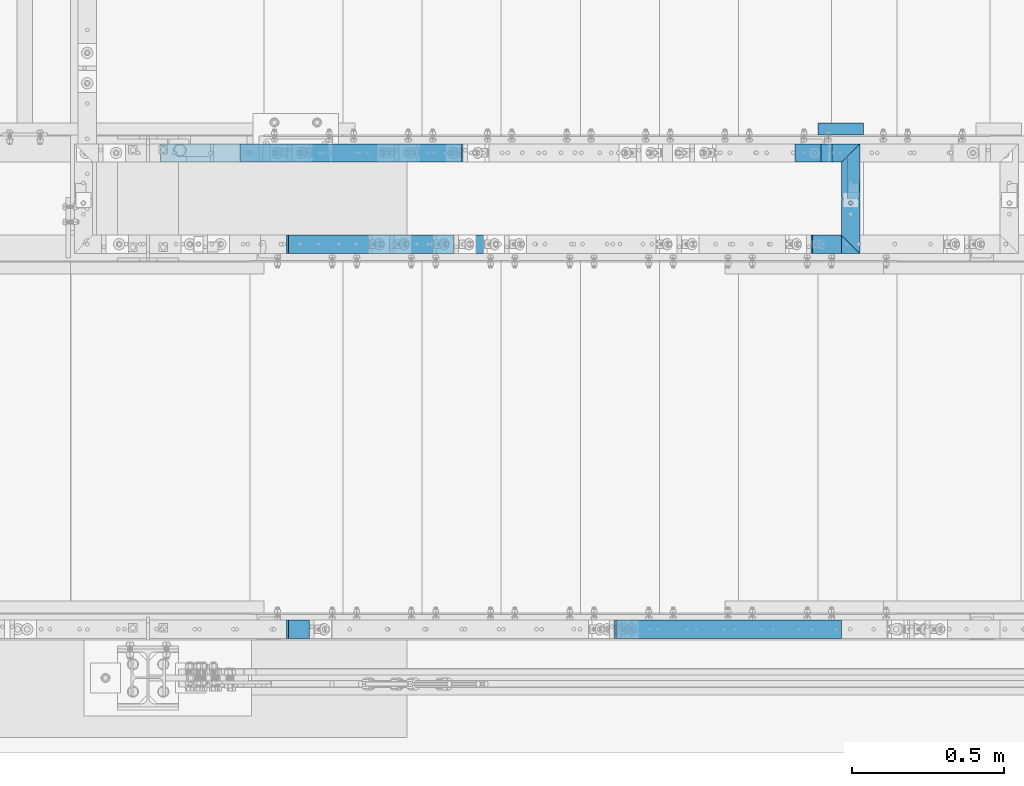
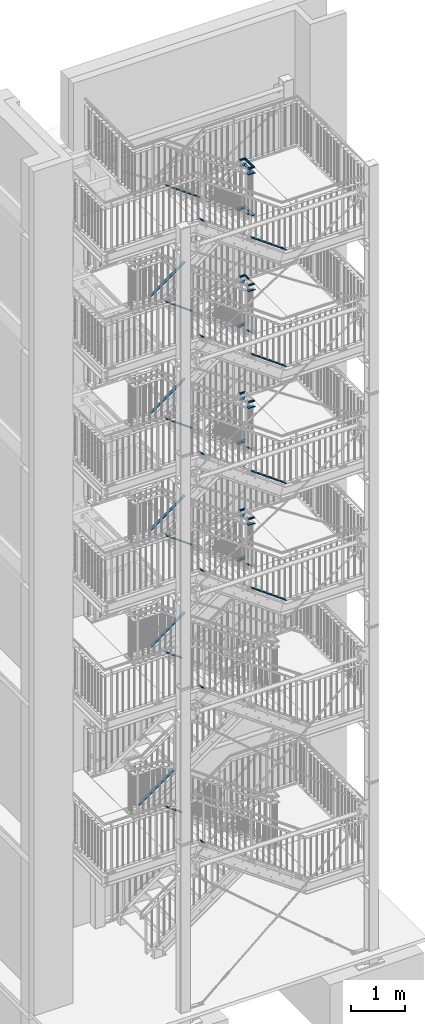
# One storey, part 135 of 825: 35 beams, 25 members, 2 openings.
"""IFC2X3 building model written with IfcOpenShell, lengths in millimetres."""

import ifcopenshell
import ifcopenshell.guid

model = None  # the IFC model being written
_history = None  # IfcOwnerHistory: only IFC2X3 demands one
_inside = {}  # id of a spatial element -> (the spatial element, [elements in it])
_under = {}  # id of a project, library or spatial element -> (it, [spatial elements below it])
_declared = {}  # id of a project -> (the project, [libraries it declares])
_typed = {}  # id of a type object -> (the type object, [elements of that type])
_made_of = {}  # id of a material, layer set ... -> (it, [elements and type objects made of it])


def new_model(schema):
    """Start an empty IFC model of exactly this schema.

    Asked for "IFC4X3", IfcOpenShell would pick the latest addendum, in which some entities
    have other attributes; the version numbers below select the first issue.
    IFC2X3 requires an IfcOwnerHistory on every rooted entity: one is made here for all.
    """
    global model, _history
    if schema == "IFC4X3":
        model = ifcopenshell.file(schema_version=(4, 3, 0, 0))
    else:
        model = ifcopenshell.file(schema=schema)
    _inside.clear()
    _under.clear()
    _declared.clear()
    _typed.clear()
    _made_of.clear()
    _history = None
    if model.schema == "IFC2X3":
        org = make("IfcOrganization", Name="unknown")
        user = make(
            "IfcPersonAndOrganization",
            ThePerson=make("IfcPerson", FamilyName="unknown"),
            TheOrganization=org,
        )
        app = make(
            "IfcApplication",
            ApplicationDeveloper=org,
            Version="unknown",
            ApplicationFullName="unknown",
            ApplicationIdentifier="unknown",
        )
        _history = make(
            "IfcOwnerHistory",
            OwningUser=user,
            OwningApplication=app,
            ChangeAction="ADDED",
            CreationDate=0,
        )
    return model


def make(cls, **values):
    """One entity of the class cls with the attributes given. An attribute that is None is left unset."""
    return model.create_entity(
        cls, **{name: value for name, value in values.items() if value is not None}
    )


def entity(cls, *values):
    """Any entity or typed value of the class cls, its attributes in the order of the schema. None: left unset."""
    e = model.create_entity(cls)
    for i, value in enumerate(values):
        if value is not None:
            e[i] = value
    return e


def rooted(cls, **values):
    """An entity with a GlobalId (a new one), such as an element, a storey or a relation."""
    return make(cls, GlobalId=ifcopenshell.guid.new(), OwnerHistory=_history, **values)


def si_unit(unit_type, name, prefix=None):
    """IfcSIUnit, for example si_unit("LENGTHUNIT", "METRE", prefix="MILLI")."""
    return make("IfcSIUnit", UnitType=unit_type, Prefix=prefix, Name=name)


def converted_unit(unit_type, name, factor, base, dimensions=None, offset=None):
    """IfcConversionBasedUnit, such as the inch: factor (a typed value) times the base unit."""
    return make(
        "IfcConversionBasedUnit"
        if offset is None
        else "IfcConversionBasedUnitWithOffset",
        ConversionOffset=offset,
        Dimensions=None
        if dimensions is None
        else entity("IfcDimensionalExponents", *dimensions),
        UnitType=unit_type,
        Name=name,
        ConversionFactor=make(
            "IfcMeasureWithUnit", ValueComponent=factor, UnitComponent=base
        ),
    )


def assignment(units):
    """IfcUnitAssignment: the units of a project."""
    return None if units is None else make("IfcUnitAssignment", Units=units)


def point(xyz):
    """IfcCartesianPoint."""
    return None if xyz is None else make("IfcCartesianPoint", Coordinates=xyz)


def direction(xyz):
    """IfcDirection."""
    return None if xyz is None else make("IfcDirection", DirectionRatios=xyz)


def frame(location, z_axis=None, x_axis=None):
    """IfcAxis2Placement3D, a coordinate frame: its origin and axes. An axis left out is left unset."""
    return make(
        "IfcAxis2Placement3D",
        Location=point(location),
        Axis=direction(z_axis),
        RefDirection=direction(x_axis),
    )


def frame_2d(location, x_axis=None):
    """IfcAxis2Placement2D, a coordinate frame in the plane: its origin and x axis."""
    return make(
        "IfcAxis2Placement2D", Location=point(location), RefDirection=direction(x_axis)
    )


def origin():
    """The frame at (0, 0, 0) with its axes left unset."""
    return frame((0.0, 0.0, 0.0))


def origin_with_axes():
    """The frame at (0, 0, 0) with the z axis (0, 0, 1) and the x axis (1, 0, 0) written out."""
    return frame((0.0, 0.0, 0.0), z_axis=(0.0, 0.0, 1.0), x_axis=(1.0, 0.0, 0.0))


def origin_2d():
    """The frame at (0, 0) in the plane with its x axis left unset."""
    return frame_2d((0.0, 0.0))


def place(relative_to, where):
    """IfcLocalPlacement: puts the frame where relative to a parent placement (None: the world)."""
    return make(
        "IfcLocalPlacement", PlacementRelTo=relative_to, RelativePlacement=where
    )


def context(
    kind, dimensions, precision=None, world=None, true_north=None, identifier=None
):
    """IfcGeometricRepresentationContext, for example the 3D "Model" context."""
    return make(
        "IfcGeometricRepresentationContext",
        ContextIdentifier=identifier,
        ContextType=kind,
        CoordinateSpaceDimension=dimensions,
        Precision=precision,
        WorldCoordinateSystem=world,
        TrueNorth=true_north,
    )


def project(units=None, contexts=None):
    """IfcProject with its units and contexts."""
    return rooted(
        "IfcProject",
        Name="project",
        RepresentationContexts=contexts,
        UnitsInContext=assignment(units),
    )


def spatial(cls, under=None, at=None, **own):
    """A site, building, storey or space (cls), placed at a placement, below another one or the project."""
    s = rooted(cls, ObjectPlacement=at, **own)
    if under is not None:
        _under.setdefault(under.id(), (under, []))[1].append(s)
    return s


def profile(cls, at=None, kind="AREA", **sizes):
    """A parametric profile (cls). Its sizes go by their IFC names, for example OverallWidth=200.0."""
    return make(cls, ProfileType=kind, Position=at, **sizes)


def rectangle(**sizes):
    """IfcRectangleProfileDef."""
    return profile("IfcRectangleProfileDef", **sizes)


def circle(**sizes):
    """IfcCircleProfileDef."""
    return profile("IfcCircleProfileDef", **sizes)


def hollow_circle(**sizes):
    """IfcCircleHollowProfileDef."""
    return profile("IfcCircleHollowProfileDef", **sizes)


def l_section(**sizes):
    """IfcLShapeProfileDef."""
    return profile("IfcLShapeProfileDef", **sizes)


def extrude(swept, where, along, depth):
    """IfcExtrudedAreaSolid: the profile swept, set in the frame where, extruded along a direction by depth."""
    return make(
        "IfcExtrudedAreaSolid",
        SweptArea=swept,
        Position=where,
        ExtrudedDirection=direction(along),
        Depth=depth,
    )


def clip(a, b, op="DIFFERENCE"):
    """IfcBooleanClippingResult: the solid a cut by the half space b."""
    return make(
        "IfcBooleanClippingResult", Operator=op, FirstOperand=a, SecondOperand=b
    )


def halfspace(plane, agree):
    """IfcHalfSpaceSolid: all space on one side of the plane z = 0 of the frame plane."""
    return make(
        "IfcHalfSpaceSolid",
        BaseSurface=make("IfcPlane", Position=plane),
        AgreementFlag=agree,
    )


def shape(context_of_items, identifier, shape_type, items):
    """IfcShapeRepresentation: the items that make up one representation, for example the "Body"."""
    return make(
        "IfcShapeRepresentation",
        ContextOfItems=context_of_items,
        RepresentationIdentifier=identifier,
        RepresentationType=shape_type,
        Items=items,
    )


def material(Name=None, Category=None):
    """IfcMaterial."""
    return make("IfcMaterial", Name=Name, Category=Category)


def made_of(thing, what):
    """Note that an element or type object is made of a material, layer set ...; save() writes the relation."""
    if what is not None:
        _made_of.setdefault(what.id(), (what, []))[1].append(thing)
    return thing


def element(
    cls,
    number,
    at=None,
    inside=None,
    cuts=None,
    type_object=None,
    material=None,
    context=None,
    identifier="Body",
    shape_type=None,
    held_by="IfcProductDefinitionShape",
    body=None,
    shapes=None,
    **own,
):
    """One element of the class cls, such as IfcWall. Its Tag is "e" and its number.

    at: its placement. inside: the storey or other place that contains it. cuts: it is an
    opening in that element (IfcRelVoidsElement). A single representation is given by context,
    identifier, shape_type and body (its items); several are given by shapes. held_by: the class
    of the entity that holds the representations. save() writes the other relations.
    """
    e = rooted(cls, Tag="e%d" % number, ObjectPlacement=at, **own)
    if body is not None:
        shapes = [shape(context, identifier, shape_type, body)]
    if shapes is not None:
        e.Representation = make(held_by, Representations=shapes)
    if inside is not None:
        _inside.setdefault(inside.id(), (inside, []))[1].append(e)
    if cuts is not None:
        rooted(
            "IfcRelVoidsElement", RelatingBuildingElement=cuts, RelatedOpeningElement=e
        )
    if type_object is not None:
        _typed.setdefault(type_object.id(), (type_object, []))[1].append(e)
    return made_of(e, material)


def aggregate(whole, parts):
    """IfcRelAggregates: a whole, such as a stair, and the parts it consists of."""
    return rooted("IfcRelAggregates", RelatingObject=whole, RelatedObjects=parts)


def save(model, path):
    """Write the relations noted so far, then the file.

    IfcRelAggregates (storeys below a building ...), IfcRelContainedInSpatialStructure (elements
    in a storey), IfcRelDefinesByType, IfcRelAssociatesMaterial and IfcRelDeclares: one each for
    every whole, place, type object, material and project.
    """
    for whole, parts in _under.values():
        aggregate(whole, parts)
    for where, things in _inside.values():
        rooted(
            "IfcRelContainedInSpatialStructure",
            RelatedElements=things,
            RelatingStructure=where,
        )
    for kind, things in _typed.values():
        rooted("IfcRelDefinesByType", RelatedObjects=things, RelatingType=kind)
    for what, things in _made_of.values():
        rooted("IfcRelAssociatesMaterial", RelatedObjects=things, RelatingMaterial=what)
    for by, libraries in _declared.values():
        rooted("IfcRelDeclares", RelatingContext=by, RelatedDefinitions=libraries)
    model.write(path)


model = new_model("IFC2X3")

# Units and contexts
model_context = context("Model", 3, precision=1e-09, world=origin_with_axes())
ifc_project = project(units=[si_unit("LENGTHUNIT", "METRE", prefix="MILLI"), si_unit("AREAUNIT", "SQUARE_METRE"), si_unit("VOLUMEUNIT", "CUBIC_METRE"), converted_unit("PLANEANGLEUNIT", "DEGREE", entity("IfcPlaneAngleMeasure", 0.01745329), si_unit("PLANEANGLEUNIT", "RADIAN"), dimensions=[0, 0, 0, 0, 0, 0, 0])], contexts=[model_context])

# Site, building, storey
site_placement = place(None, origin_with_axes())
site = spatial("IfcSite", under=ifc_project, at=site_placement, Name="Cnopf'sche Kinderklinik", CompositionType="ELEMENT")
building_placement = place(site_placement, origin_with_axes())
building = spatial("IfcBuilding", under=site, at=building_placement, Name="Struktur 1", CompositionType="ELEMENT")
storey_placement = place(building_placement, origin_with_axes())
storey = spatial("IfcBuildingStorey", under=building, at=storey_placement, Name="Default Storey", CompositionType="ELEMENT", Elevation=0.0)

# Beams
ifc_material = material(Name="S235JR")
for number, where, z_axis, x_axis, name in (
    (1, (7206.713402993, 6160.936971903, 11254.3000003), (1.0, 0.0, 0.0), (0.0, 0.0, -1.0), "TopLanding#3"),
    (2, (7206.713402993, 6160.936971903, 8624.8), (1.0, 0.0, 0.0), (0.0, 0.0, -1.0), "TopLanding#3"),
    (3, (7206.713402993, 6160.936971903, 13885.3000001), (1.0, 0.0, 0.0), (0.0, 0.0, -1.0), "TopLanding#3"),
    (4, (7206.713402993, 6160.936971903, 16512.8000003), (1.0, 0.0, 0.0), (0.0, 0.0, -1.0), "TopLanding#3"),
):
    element("IfcBeam", number, at=place(None, frame(where, z_axis=z_axis, x_axis=x_axis)), inside=storey, material=ifc_material, Name=name, ObjectType="TopLanding#3", context=model_context, shape_type="SweptSolid", body=[
        extrude(l_section(Depth=40.0, Width=40.0, Thickness=4.0, FilletRadius=6.0, EdgeRadius=3.0, at=frame_2d((8.8, 8.8))), origin(), (0.0, 0.0, -1.0), 150.0),
    ])

# Members
member_1_placement = place(None, frame((5380.542886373, 4526.736971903, 3864.391894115), z_axis=(0.814635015, 0.0, -0.579973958), x_axis=(-0.579973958, 0.0, -0.814635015)))
element("IfcMember", 5, at=member_1_placement, inside=storey, material=ifc_material, Name="Railing_Kneerail_Stair#15", ObjectType="Railing_Kneerail_Stair#15", context=model_context, shape_type="SweptSolid", body=[
    extrude(rectangle(XDim=10.0, YDim=60.0, at=origin_2d()), origin(), (0.0, 0.0, -1.0), 80.488581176),
])
member_2_placement = place(None, frame((5384.416190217, 4526.736971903, 7335.61551807), z_axis=(0.818063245, 0.0, -0.57512827), x_axis=(-0.57512827, 0.0, -0.818063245)))
element("IfcMember", 6, at=member_2_placement, inside=storey, material=ifc_material, Name="Railing_Kneerail_Stair#17", ObjectType="Railing_Kneerail_Stair#17", context=model_context, shape_type="SweptSolid", body=[
    extrude(rectangle(XDim=10.0, YDim=60.0, at=origin_2d()), origin(), (0.0, 0.0, -1.0), 84.285194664),
])
member_3_placement = place(None, frame((7131.759319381, 4526.736971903, 8701.94824821), z_axis=(0.810350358, 0.0, -0.585945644), x_axis=(-0.585945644, 0.0, -0.810350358)))
element("IfcMember", 7, at=member_3_placement, inside=storey, material=ifc_material, Name="Railing_Kneerail_Stair#15", ObjectType="Railing_Kneerail_Stair#15", context=model_context, shape_type="SweptSolid", body=[
    extrude(rectangle(XDim=10.0, YDim=60.0, at=origin_2d()), origin(), (0.0, 0.0, -1.0), 915.082728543),
])
member_4_placement = place(None, frame((5384.362103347, 4526.736971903, 9965.450850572), z_axis=(0.810350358, 0.0, -0.585945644), x_axis=(-0.585945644, 0.0, -0.810350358)))
element("IfcMember", 8, at=member_4_placement, inside=storey, material=ifc_material, Name="Railing_Kneerail_Stair#17", ObjectType="Railing_Kneerail_Stair#17", context=model_context, shape_type="SweptSolid", body=[
    extrude(rectangle(XDim=10.0, YDim=60.0, at=origin_2d()), origin(), (0.0, 0.0, -1.0), 86.357671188),
])
member_5_placement = place(None, frame((7131.833371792, 4526.736971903, 11331.445605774), z_axis=(0.810878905, 0.0, -0.585213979), x_axis=(-0.585213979, 0.0, -0.810878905)))
element("IfcMember", 9, at=member_5_placement, inside=storey, material=ifc_material, Name="Railing_Kneerail_Stair#15", ObjectType="Railing_Kneerail_Stair#15", context=model_context, shape_type="SweptSolid", body=[
    extrude(rectangle(XDim=10.0, YDim=60.0, at=origin_2d()), origin(), (0.0, 0.0, -1.0), 914.582094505),
])
member_6_placement = place(None, frame((5384.36576167, 4526.736971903, 12592.598740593), z_axis=(0.810878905, 0.0, -0.585213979), x_axis=(-0.585213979, 0.0, -0.810878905)))
element("IfcMember", 10, at=member_6_placement, inside=storey, material=ifc_material, Name="Railing_Kneerail_Stair#17", ObjectType="Railing_Kneerail_Stair#17", context=model_context, shape_type="SweptSolid", body=[
    extrude(rectangle(XDim=10.0, YDim=60.0, at=origin_2d()), origin(), (0.0, 0.0, -1.0), 86.21744481),
])
member_7_placement = place(None, frame((7131.715066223, 4526.736971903, 13962.449833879), z_axis=(0.810033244, 0.0, -0.586383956), x_axis=(-0.586383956, 0.0, -0.810033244)))
element("IfcMember", 11, at=member_7_placement, inside=storey, material=ifc_material, Name="Railing_Kneerail_Stair#15", ObjectType="Railing_Kneerail_Stair#15", context=model_context, shape_type="SweptSolid", body=[
    extrude(rectangle(XDim=10.0, YDim=60.0, at=origin_2d()), origin(), (0.0, 0.0, -1.0), 915.383630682),
])
member_8_placement = place(None, frame((5384.359911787, 4526.736971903, 15227.36215025), z_axis=(0.810033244, 0.0, -0.586383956), x_axis=(-0.586383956, 0.0, -0.810033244)))
element("IfcMember", 12, at=member_8_placement, inside=storey, material=ifc_material, Name="Railing_Kneerail_Stair#17", ObjectType="Railing_Kneerail_Stair#17", context=model_context, shape_type="SweptSolid", body=[
    extrude(rectangle(XDim=10.0, YDim=60.0, at=origin_2d()), origin(), (0.0, 0.0, -1.0), 86.441682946),
])
member_9_placement = place(None, frame((7131.937672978, 4526.736971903, 16589.941905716), z_axis=(0.811618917, 0.0, -0.584187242), x_axis=(-0.584187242, 0.0, -0.811618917)))
element("IfcMember", 13, at=member_9_placement, inside=storey, material=ifc_material, Name="Railing_Kneerail_Stair#15", ObjectType="Railing_Kneerail_Stair#15", context=model_context, shape_type="SweptSolid", body=[
    extrude(rectangle(XDim=10.0, YDim=60.0, at=origin_2d()), origin(), (0.0, 0.0, -1.0), 913.8830392),
])
member_10_placement = place(None, frame((5384.370895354, 4526.736971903, 17847.805904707), z_axis=(0.811618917, 0.0, -0.584187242), x_axis=(-0.584187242, 0.0, -0.811618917)))
element("IfcMember", 14, at=member_10_placement, inside=storey, material=ifc_material, Name="Railing_Kneerail_Stair#17", ObjectType="Railing_Kneerail_Stair#17", context=model_context, shape_type="SweptSolid", body=[
    extrude(rectangle(XDim=10.0, YDim=60.0, at=origin_2d()), origin(), (0.0, 0.0, -1.0), 86.02069037),
])
member_11_placement = place(None, frame((4900.549106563, 6091.736971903, 3912.909683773), z_axis=(-0.818063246, 0.0, -0.575128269), x_axis=(0.575128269, 0.0, -0.818063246)))
element("IfcMember", 15, at=member_11_placement, inside=storey, material=ifc_material, Name="Railing_Kneerail_Stair#2", ObjectType="Railing_Kneerail_Stair#2", context=model_context, shape_type="SweptSolid", body=[
    extrude(rectangle(XDim=10.0, YDim=60.0, at=origin_2d()), origin(), (0.0, 0.0, -1.0), 932.025112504),
])

# Beam
beam_1_placement = place(None, frame((7025.200780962, 6100.536971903, 9776.0), z_axis=(-1.0, 0.0, 0.0), x_axis=(0.0, 0.0, -1.0)))
element("IfcBeam", 16, at=beam_1_placement, inside=storey, material=ifc_material, Name="Railing_Handrail_Landing#4", ObjectType="Railing_Handrail_Landing#4", context=model_context, shape_type="Clipping", body=[
    clip(clip(extrude(hollow_circle(Radius=21.2, WallThickness=3.2, at=origin_2d()), origin(), (0.0, 0.0, -1.0), 190.821431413), halfspace(frame((9776.0, 6637.078885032, 6488.658867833), z_axis=(0.0, -0.707106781, 0.707106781), x_axis=(0.0, 0.707106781, 0.707106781)), True)), halfspace(frame((6781.567004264, 6100.536971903, -2226.46429398), z_axis=(-0.307936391, 0.0, -0.951406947), x_axis=(0.0, -1.0, 0.0)), True)),
])

# Member
member_12_placement = place(None, frame((5161.667486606, 6091.736971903, 7385.94824821), z_axis=(-0.810350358, 0.0, -0.585945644), x_axis=(0.585945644, 0.0, -0.810350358)))
element("IfcMember", 17, at=member_12_placement, inside=storey, material=ifc_material, Name="Railing_Kneerail_Stair#2", ObjectType="Railing_Kneerail_Stair#2", context=model_context, shape_type="SweptSolid", body=[
    extrude(rectangle(XDim=10.0, YDim=60.0, at=origin_2d()), origin(), (0.0, 0.0, -1.0), 897.286810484),
])

# Beams
beam_2_placement = place(None, frame((6981.974400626, 6091.736971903, 8701.0), z_axis=(-1.0, 0.0, 0.0), x_axis=(0.0, 0.0, -1.0)))
element("IfcBeam", 18, at=beam_2_placement, inside=storey, material=ifc_material, Name="Railing_Kneerail_Landing#4", ObjectType="Railing_Kneerail_Landing#4", context=model_context, shape_type="SweptSolid", body=[
    extrude(rectangle(XDim=10.0, YDim=60.0, at=origin_2d()), origin(), (0.0, 0.0, -1.0), 107.240002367),
])
beam_3_placement = place(None, frame((7104.214402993, 6091.736971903, 8701.0), z_axis=(-1.0, 0.0, 0.0), x_axis=(0.0, 0.0, -1.0)))
element("IfcBeam", 19, at=beam_3_placement, inside=storey, material=ifc_material, Name="Railing_Kneerail_Landing#5", ObjectType="Railing_Kneerail_Landing#5", context=model_context, shape_type="Clipping", body=[
    clip(extrude(rectangle(XDim=10.0, YDim=60.0, at=origin_2d()), origin(), (0.0, 0.0, -1.0), 103.619435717), halfspace(frame((8701.0, 6628.278885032, 6567.672489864), z_axis=(0.0, -0.707106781, 0.707106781), x_axis=(0.0, 0.707106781, 0.707106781)), True)),
])
beam_4_placement = place(None, frame((7025.205380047, 6100.536971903, 12405.5000003), z_axis=(-1.0, 0.0, 0.0), x_axis=(0.0, 0.0, -1.0)))
element("IfcBeam", 20, at=beam_4_placement, inside=storey, material=ifc_material, Name="Railing_Handrail_Landing#4", ObjectType="Railing_Handrail_Landing#4", context=model_context, shape_type="Clipping", body=[
    clip(clip(extrude(hollow_circle(Radius=21.2, WallThickness=3.2, at=origin_2d()), origin(), (0.0, 0.0, -1.0), 190.816832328), halfspace(frame((12405.5000003, 6637.078885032, 6488.663466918), z_axis=(0.0, -0.707106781, 0.707106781), x_axis=(0.0, 0.707106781, 0.707106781)), True)), halfspace(frame((9167.585155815, 6100.536971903, -2994.158300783), z_axis=(-0.307506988, 0.0, -0.951545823), x_axis=(0.0, -1.0, 0.0)), True)),
])

# Member
member_13_placement = place(None, frame((5161.593434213, 6091.736971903, 10017.945605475), z_axis=(-0.810878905, 0.0, -0.585213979), x_axis=(0.585213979, 0.0, -0.810878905)))
element("IfcMember", 21, at=member_13_placement, inside=storey, material=ifc_material, Name="Railing_Kneerail_Stair#2", ObjectType="Railing_Kneerail_Stair#2", context=model_context, shape_type="SweptSolid", body=[
    extrude(rectangle(XDim=10.0, YDim=60.0, at=origin_2d()), origin(), (0.0, 0.0, -1.0), 896.797776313),
])

# Beams
beam_5_placement = place(None, frame((6981.89902139, 6091.736971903, 11330.5000003), z_axis=(-1.0, 0.0, 0.0), x_axis=(0.0, 0.0, -1.0)))
element("IfcBeam", 22, at=beam_5_placement, inside=storey, material=ifc_material, Name="Railing_Kneerail_Landing#4", ObjectType="Railing_Kneerail_Landing#4", context=model_context, shape_type="SweptSolid", body=[
    extrude(rectangle(XDim=10.0, YDim=60.0, at=origin_2d()), origin(), (0.0, 0.0, -1.0), 107.315381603),
])
beam_6_placement = place(None, frame((7104.214402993, 6091.736971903, 11330.5000003), z_axis=(-1.0, 0.0, 0.0), x_axis=(0.0, 0.0, -1.0)))
element("IfcBeam", 23, at=beam_6_placement, inside=storey, material=ifc_material, Name="Railing_Kneerail_Landing#5", ObjectType="Railing_Kneerail_Landing#5", context=model_context, shape_type="Clipping", body=[
    clip(extrude(rectangle(XDim=10.0, YDim=60.0, at=origin_2d()), origin(), (0.0, 0.0, -1.0), 103.619435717), halfspace(frame((11330.5000003, 6628.278885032, 6567.672489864), z_axis=(0.0, -0.707106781, 0.707106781), x_axis=(0.0, 0.707106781, 0.707106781)), True)),
])
beam_7_placement = place(None, frame((7025.198020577, 6100.536971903, 15036.5000001), z_axis=(-1.0, 0.0, 0.0), x_axis=(0.0, 0.0, -1.0)))
element("IfcBeam", 24, at=beam_7_placement, inside=storey, material=ifc_material, Name="Railing_Handrail_Landing#4", ObjectType="Railing_Handrail_Landing#4", context=model_context, shape_type="Clipping", body=[
    clip(clip(extrude(hollow_circle(Radius=21.2, WallThickness=3.2, at=origin_2d()), origin(), (0.0, 0.0, -1.0), 190.824191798), halfspace(frame((15036.5000001, 6637.078885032, 6488.656107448), z_axis=(0.0, -0.707106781, 0.707106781), x_axis=(0.0, 0.707106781, 0.707106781)), True)), halfspace(frame((11539.310370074, 6100.536971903, -3769.827031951), z_axis=(-0.308193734, 0.0, -0.951323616), x_axis=(0.0, -1.0, 0.0)), True)),
])

# Member
member_14_placement = place(None, frame((5161.711739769, 6091.736971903, 12644.949833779), z_axis=(-0.810033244, 0.0, -0.586383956), x_axis=(0.586383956, 0.0, -0.810033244)))
element("IfcMember", 25, at=member_14_placement, inside=storey, material=ifc_material, Name="Railing_Kneerail_Stair#2", ObjectType="Railing_Kneerail_Stair#2", context=model_context, shape_type="SweptSolid", body=[
    extrude(rectangle(XDim=10.0, YDim=60.0, at=origin_2d()), origin(), (0.0, 0.0, -1.0), 897.580745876),
])

# Beams
beam_8_placement = place(None, frame((6982.019450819, 6091.736971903, 13961.5000001), z_axis=(-1.0, 0.0, 0.0), x_axis=(0.0, 0.0, -1.0)))
element("IfcBeam", 26, at=beam_8_placement, inside=storey, material=ifc_material, Name="Railing_Kneerail_Landing#4", ObjectType="Railing_Kneerail_Landing#4", context=model_context, shape_type="SweptSolid", body=[
    extrude(rectangle(XDim=10.0, YDim=60.0, at=origin_2d()), origin(), (0.0, 0.0, -1.0), 107.194952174),
])
beam_9_placement = place(None, frame((7104.214402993, 6091.736971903, 13961.5000001), z_axis=(-1.0, 0.0, 0.0), x_axis=(0.0, 0.0, -1.0)))
element("IfcBeam", 27, at=beam_9_placement, inside=storey, material=ifc_material, Name="Railing_Kneerail_Landing#5", ObjectType="Railing_Kneerail_Landing#5", context=model_context, shape_type="Clipping", body=[
    clip(extrude(rectangle(XDim=10.0, YDim=60.0, at=origin_2d()), origin(), (0.0, 0.0, -1.0), 103.619435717), halfspace(frame((13961.5000001, 6628.278885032, 6567.672489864), z_axis=(0.0, -0.707106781, 0.707106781), x_axis=(0.0, 0.707106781, 0.707106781)), True)),
])
beam_10_placement = place(None, frame((7025.211816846, 6100.536971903, 17664.0000003), z_axis=(-1.0, 0.0, 0.0), x_axis=(0.0, 0.0, -1.0)))
element("IfcBeam", 28, at=beam_10_placement, inside=storey, material=ifc_material, Name="Railing_Handrail_Landing#4", ObjectType="Railing_Handrail_Landing#4", context=model_context, shape_type="Clipping", body=[
    clip(clip(extrude(hollow_circle(Radius=21.2, WallThickness=3.2, at=origin_2d()), origin(), (0.0, 0.0, -1.0), 190.810395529), halfspace(frame((17664.0000003, 6637.078885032, 6488.669903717), z_axis=(0.0, -0.707106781, 0.707106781), x_axis=(0.0, 0.707106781, 0.707106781)), True)), halfspace(frame((13938.99699536, 6100.536971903, -4526.368604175), z_axis=(-0.306904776, 0.0, -0.951740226), x_axis=(0.0, -1.0, 0.0)), True)),
])

# Member
member_15_placement = place(None, frame((5161.489133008, 6091.736971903, 15279.941905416), z_axis=(-0.811618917, 0.0, -0.584187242), x_axis=(0.584187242, 0.0, -0.811618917)))
element("IfcMember", 29, at=member_15_placement, inside=storey, material=ifc_material, Name="Railing_Kneerail_Stair#2", ObjectType="Railing_Kneerail_Stair#2", context=model_context, shape_type="SweptSolid", body=[
    extrude(rectangle(XDim=10.0, YDim=60.0, at=origin_2d()), origin(), (0.0, 0.0, -1.0), 896.114936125),
])

# Beams
beam_11_placement = place(None, frame((6981.792867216, 6091.736971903, 16589.0000003), z_axis=(-1.0, 0.0, 0.0), x_axis=(0.0, 0.0, -1.0)))
element("IfcBeam", 30, at=beam_11_placement, inside=storey, material=ifc_material, Name="Railing_Kneerail_Landing#4", ObjectType="Railing_Kneerail_Landing#4", context=model_context, shape_type="SweptSolid", body=[
    extrude(rectangle(XDim=10.0, YDim=60.0, at=origin_2d()), origin(), (0.0, 0.0, -1.0), 107.421535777),
])
beam_12_placement = place(None, frame((7104.214402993, 6091.736971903, 16589.0000003), z_axis=(-1.0, 0.0, 0.0), x_axis=(0.0, 0.0, -1.0)))
element("IfcBeam", 31, at=beam_12_placement, inside=storey, material=ifc_material, Name="Railing_Kneerail_Landing#5", ObjectType="Railing_Kneerail_Landing#5", context=model_context, shape_type="Clipping", body=[
    clip(extrude(rectangle(XDim=10.0, YDim=60.0, at=origin_2d()), origin(), (0.0, 0.0, -1.0), 103.619435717), halfspace(frame((16589.0000003, 6628.278885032, 6567.672489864), z_axis=(0.0, -0.707106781, 0.707106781), x_axis=(0.0, 0.707106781, 0.707106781)), True)),
])

# Members
member_16_placement = place(None, frame((5646.313866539, 5791.736971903, 3675.178020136), z_axis=(0.814635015, 0.0, -0.579973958), x_axis=(-0.579973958, 0.0, -0.814635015)))
element("IfcMember", 32, at=member_16_placement, inside=storey, material=ifc_material, Name="Railing_Kneerail_Stair#4", ObjectType="Railing_Kneerail_Stair#4", context=model_context, shape_type="SweptSolid", body=[
    extrude(rectangle(XDim=10.0, YDim=60.0, at=origin_2d()), origin(), (0.0, 0.0, -1.0), 406.734047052),
])
member_17_placement = place(None, frame((5646.338094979, 5791.736971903, 7151.474875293), z_axis=(0.818063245, 0.0, -0.57512827), x_axis=(-0.57512827, 0.0, -0.818063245)))
element("IfcMember", 33, at=member_17_placement, inside=storey, material=ifc_material, Name="Railing_Kneerail_Stair#4", ObjectType="Railing_Kneerail_Stair#4", context=model_context, shape_type="SweptSolid", body=[
    extrude(rectangle(XDim=10.0, YDim=60.0, at=origin_2d()), origin(), (0.0, 0.0, -1.0), 404.458367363),
])

# Beam
beam_13_placement = place(None, frame((7216.022212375, 5782.936971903, 9776.0), z_axis=(1.0, 0.0, 0.0), x_axis=(0.0, 0.0, -1.0)))
element("IfcBeam", 34, at=beam_13_placement, inside=storey, material=ifc_material, Name="Railing_Handrail_Landing#2", ObjectType="Railing_Handrail_Landing#2", context=model_context, shape_type="Clipping", body=[
    clip(clip(extrude(hollow_circle(Radius=21.2, WallThickness=3.2, at=origin_2d()), origin(), (0.0, 0.0, -1.0), 190.821431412), halfspace(frame((9776.0, 695.341913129, -737.743327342), z_axis=(0.0, -0.707106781, -0.707106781), x_axis=(0.0, -0.707106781, 0.707106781)), True)), halfspace(frame((10916.418096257, -5782.936971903, -3692.561748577), z_axis=(0.307936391, 0.0, 0.951406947), x_axis=(0.0, 1.0, 0.0)), True)),
])

# Members
member_18_placement = place(None, frame((7131.846764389, 5791.736971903, 8701.885018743), z_axis=(0.810350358, 0.0, -0.585945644), x_axis=(-0.585945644, 0.0, -0.810350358)))
element("IfcMember", 35, at=member_18_placement, inside=storey, material=ifc_material, Name="Railing_Kneerail_Stair#1", ObjectType="Railing_Kneerail_Stair#1", context=model_context, shape_type="SweptSolid", body=[
    extrude(rectangle(XDim=10.0, YDim=60.0, at=origin_2d()), origin(), (0.0, 0.0, -1.0), 116.866281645),
])
member_19_placement = place(None, frame((5858.784174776, 5791.736971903, 9622.407198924), z_axis=(0.810350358, 0.0, -0.585945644), x_axis=(-0.585945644, 0.0, -0.810350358)))
element("IfcMember", 36, at=member_19_placement, inside=storey, material=ifc_material, Name="Railing_Kneerail_Stair#3", ObjectType="Railing_Kneerail_Stair#3", context=model_context, shape_type="SweptSolid", body=[
    extrude(rectangle(XDim=10.0, YDim=60.0, at=origin_2d()), origin(), (0.0, 0.0, -1.0), 671.810699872),
])

# Beams
beam_14_placement = place(None, frame((7249.726029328, 5791.736971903, 9649.8), z_axis=(1.0, 0.0, 0.0), x_axis=(0.0, 0.0, -1.0)))
element("IfcBeam", 37, at=beam_14_placement, inside=storey, material=ifc_material, Name="Railing_Kneerail_Landing#1000", ObjectType="Railing_Kneerail_Landing#1000", context=model_context, shape_type="Clipping", body=[
    clip(extrude(rectangle(XDim=10.0, YDim=60.0, at=origin_2d()), origin(), (0.0, 0.0, -1.0), 199.874307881), halfspace(frame((9649.8, 686.541913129, -771.447144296), z_axis=(0.0, -0.707106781, -0.707106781), x_axis=(0.0, -0.707106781, 0.707106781)), True)),
])
beam_15_placement = place(None, frame((7216.022212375, 5782.936971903, 12405.5000003), z_axis=(1.0, 0.0, 0.0), x_axis=(0.0, 0.0, -1.0)))
element("IfcBeam", 38, at=beam_15_placement, inside=storey, material=ifc_material, Name="Railing_Handrail_Landing#2", ObjectType="Railing_Handrail_Landing#2", context=model_context, shape_type="Clipping", body=[
    clip(clip(extrude(hollow_circle(Radius=21.2, WallThickness=3.2, at=origin_2d()), origin(), (0.0, 0.0, -1.0), 190.816832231), halfspace(frame((12405.5000003, 695.341913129, -737.743327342), z_axis=(0.0, -0.707106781, -0.707106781), x_axis=(0.0, -0.707106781, 0.707106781)), True)), halfspace(frame((13297.273101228, -5782.936971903, -4456.530548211), z_axis=(0.307506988, 0.0, 0.951545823), x_axis=(0.0, 1.0, 0.0)), True)),
])

# Members
member_20_placement = place(None, frame((7131.874645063, 5791.736971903, 11331.415818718), z_axis=(0.810878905, 0.0, -0.585213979), x_axis=(-0.585213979, 0.0, -0.810878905)))
element("IfcMember", 39, at=member_20_placement, inside=storey, material=ifc_material, Name="Railing_Kneerail_Stair#1", ObjectType="Railing_Kneerail_Stair#1", context=model_context, shape_type="SweptSolid", body=[
    extrude(rectangle(XDim=10.0, YDim=60.0, at=origin_2d()), origin(), (0.0, 0.0, -1.0), 116.829000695),
])
member_21_placement = place(None, frame((5858.787833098, 5791.736971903, 12250.206767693), z_axis=(0.810878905, 0.0, -0.585213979), x_axis=(-0.585213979, 0.0, -0.810878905)))
element("IfcMember", 40, at=member_21_placement, inside=storey, material=ifc_material, Name="Railing_Kneerail_Stair#3", ObjectType="Railing_Kneerail_Stair#3", context=model_context, shape_type="SweptSolid", body=[
    extrude(rectangle(XDim=10.0, YDim=60.0, at=origin_2d()), origin(), (0.0, 0.0, -1.0), 671.288863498),
])

# Beams
beam_16_placement = place(None, frame((7249.726029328, 5791.736971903, 12279.3000003), z_axis=(1.0, 0.0, 0.0), x_axis=(0.0, 0.0, -1.0)))
element("IfcBeam", 41, at=beam_16_placement, inside=storey, material=ifc_material, Name="Railing_Kneerail_Landing#1000", ObjectType="Railing_Kneerail_Landing#1000", context=model_context, shape_type="Clipping", body=[
    clip(extrude(rectangle(XDim=10.0, YDim=60.0, at=origin_2d()), origin(), (0.0, 0.0, -1.0), 199.863739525), halfspace(frame((12279.3000003, 686.541913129, -771.447144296), z_axis=(0.0, -0.707106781, -0.707106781), x_axis=(0.0, -0.707106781, 0.707106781)), True)),
])
beam_17_placement = place(None, frame((7216.022212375, 5782.936971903, 15036.5000001), z_axis=(1.0, 0.0, 0.0), x_axis=(0.0, 0.0, -1.0)))
element("IfcBeam", 42, at=beam_17_placement, inside=storey, material=ifc_material, Name="Railing_Handrail_Landing#2", ObjectType="Railing_Handrail_Landing#2", context=model_context, shape_type="Clipping", body=[
    clip(clip(extrude(hollow_circle(Radius=21.2, WallThickness=3.2, at=origin_2d()), origin(), (0.0, 0.0, -1.0), 190.824191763), halfspace(frame((15036.5000001, 695.341913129, -737.743327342), z_axis=(0.0, -0.707106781, -0.707106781), x_axis=(0.0, -0.707106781, 0.707106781)), True)), halfspace(frame((15677.254505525, -5782.936971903, -5238.15950795), z_axis=(0.308193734, 0.0, 0.951323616), x_axis=(0.0, 1.0, 0.0)), True)),
])

# Members
member_22_placement = place(None, frame((7131.830041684, 5791.736971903, 13962.366603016), z_axis=(0.810033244, 0.0, -0.586383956), x_axis=(-0.586383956, 0.0, -0.810033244)))
element("IfcMember", 43, at=member_22_placement, inside=storey, material=ifc_material, Name="Railing_Kneerail_Stair#1", ObjectType="Railing_Kneerail_Stair#1", context=model_context, shape_type="SweptSolid", body=[
    extrude(rectangle(XDim=10.0, YDim=60.0, at=origin_2d()), origin(), (0.0, 0.0, -1.0), 116.888682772),
])
member_23_placement = place(None, frame((5858.781983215, 5791.736971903, 14883.927491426), z_axis=(0.810033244, 0.0, -0.586383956), x_axis=(-0.586383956, 0.0, -0.810033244)))
element("IfcMember", 44, at=member_23_placement, inside=storey, material=ifc_material, Name="Railing_Kneerail_Stair#3", ObjectType="Railing_Kneerail_Stair#3", context=model_context, shape_type="SweptSolid", body=[
    extrude(rectangle(XDim=10.0, YDim=60.0, at=origin_2d()), origin(), (0.0, 0.0, -1.0), 672.123906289),
])

# Beams
beam_18_placement = place(None, frame((7249.726029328, 5791.736971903, 14910.3000001), z_axis=(1.0, 0.0, 0.0), x_axis=(0.0, 0.0, -1.0)))
element("IfcBeam", 45, at=beam_18_placement, inside=storey, material=ifc_material, Name="Railing_Kneerail_Landing#1000", ObjectType="Railing_Kneerail_Landing#1000", context=model_context, shape_type="Clipping", body=[
    clip(extrude(rectangle(XDim=10.0, YDim=60.0, at=origin_2d()), origin(), (0.0, 0.0, -1.0), 199.880643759), halfspace(frame((14910.3000001, 686.541913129, -771.447144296), z_axis=(0.0, -0.707106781, -0.707106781), x_axis=(0.0, -0.707106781, 0.707106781)), True)),
])
beam_19_placement = place(None, frame((7216.022212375, 5782.936971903, 17664.0000003), z_axis=(1.0, 0.0, 0.0), x_axis=(0.0, 0.0, -1.0)))
element("IfcBeam", 46, at=beam_19_placement, inside=storey, material=ifc_material, Name="Railing_Handrail_Landing#2", ObjectType="Railing_Handrail_Landing#2", context=model_context, shape_type="Clipping", body=[
    clip(clip(extrude(hollow_circle(Radius=21.2, WallThickness=3.2, at=origin_2d()), origin(), (0.0, 0.0, -1.0), 190.810396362), halfspace(frame((17664.0000003, 695.341913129, -737.743327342), z_axis=(0.0, -0.707106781, -0.707106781), x_axis=(0.0, -0.707106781, 0.707106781)), True)), halfspace(frame((18061.439551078, -5782.936971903, -5983.525237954), z_axis=(0.306904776, 0.0, 0.951740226), x_axis=(0.0, 1.0, 0.0)), True)),
])

# Members
member_24_placement = place(None, frame((7131.913697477, 5791.736971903, 16589.959162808), z_axis=(0.811618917, 0.0, -0.584187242), x_axis=(-0.584187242, 0.0, -0.811618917)))
element("IfcMember", 47, at=member_24_placement, inside=storey, material=ifc_material, Name="Railing_Kneerail_Stair#1", ObjectType="Railing_Kneerail_Stair#1", context=model_context, shape_type="SweptSolid", body=[
    extrude(rectangle(XDim=10.0, YDim=60.0, at=origin_2d()), origin(), (0.0, 0.0, -1.0), 116.776921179),
])
member_25_placement = place(None, frame((6025.043216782, 5791.736971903, 17386.662640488), z_axis=(0.811618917, 0.0, -0.584187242), x_axis=(-0.584187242, 0.0, -0.811618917)))
element("IfcMember", 48, at=member_25_placement, inside=storey, material=ifc_material, Name="Railing_Kneerail_Stair#3", ObjectType="Railing_Kneerail_Stair#3", context=model_context, shape_type="SweptSolid", body=[
    extrude(rectangle(XDim=10.0, YDim=60.0, at=origin_2d()), origin(), (0.0, 0.0, -1.0), 875.396477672),
])

# Beams
beam_20_placement = place(None, frame((7249.726029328, 5791.736971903, 17537.8000003), z_axis=(1.0, 0.0, 0.0), x_axis=(0.0, 0.0, -1.0)))
element("IfcBeam", 49, at=beam_20_placement, inside=storey, material=ifc_material, Name="Railing_Kneerail_Landing#1000", ObjectType="Railing_Kneerail_Landing#1000", context=model_context, shape_type="Clipping", body=[
    clip(extrude(rectangle(XDim=10.0, YDim=60.0, at=origin_2d()), origin(), (0.0, 0.0, -1.0), 199.848925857), halfspace(frame((17537.8000003, 686.541913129, -771.447144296), z_axis=(0.0, -0.707106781, -0.707106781), x_axis=(0.0, -0.707106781, 0.707106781)), True)),
])
beam_21_placement = place(None, frame((7066.774372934, 6091.736971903, 17537.8000003), z_axis=(-1.0, 0.0, 0.0), x_axis=(0.0, 0.0, -1.0)))
element("IfcBeam", 50, at=beam_21_placement, inside=storey, material=ifc_material, Name="Railing_Kneerail_Landing#1005", ObjectType="Railing_Kneerail_Landing#1005", context=model_context, shape_type="Clipping", body=[
    clip(extrude(rectangle(XDim=10.0, YDim=60.0, at=origin_2d()), origin(), (0.0, 0.0, -1.0), 141.059465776), halfspace(frame((17537.8000003, 6628.278885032, 6530.232459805), z_axis=(0.0, -0.707106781, 0.707106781), x_axis=(0.0, 0.707106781, 0.707106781)), True)),
])
beam_22_placement = place(None, frame((7066.821051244, 6091.736971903, 14910.3000001), z_axis=(-1.0, 0.0, 0.0), x_axis=(0.0, 0.0, -1.0)))
element("IfcBeam", 51, at=beam_22_placement, inside=storey, material=ifc_material, Name="Railing_Kneerail_Landing#1005", ObjectType="Railing_Kneerail_Landing#1005", context=model_context, shape_type="Clipping", body=[
    clip(extrude(rectangle(XDim=10.0, YDim=60.0, at=origin_2d()), origin(), (0.0, 0.0, -1.0), 141.012787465), halfspace(frame((14910.3000001, 6628.278885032, 6530.279138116), z_axis=(0.0, -0.707106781, 0.707106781), x_axis=(0.0, 0.707106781, 0.707106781)), True)),
])
beam_23_placement = place(None, frame((7066.796173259, 6091.736971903, 12279.3000003), z_axis=(-1.0, 0.0, 0.0), x_axis=(0.0, 0.0, -1.0)))
element("IfcBeam", 52, at=beam_23_placement, inside=storey, material=ifc_material, Name="Railing_Kneerail_Landing#1005", ObjectType="Railing_Kneerail_Landing#1005", context=model_context, shape_type="Clipping", body=[
    clip(extrude(rectangle(XDim=10.0, YDim=60.0, at=origin_2d()), origin(), (0.0, 0.0, -1.0), 141.037665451), halfspace(frame((12279.3000003, 6628.278885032, 6530.25426013), z_axis=(0.0, -0.707106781, 0.707106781), x_axis=(0.0, 0.707106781, 0.707106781)), True)),
])
beam_24_placement = place(None, frame((7066.811726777, 6091.736971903, 9649.8), z_axis=(-1.0, 0.0, 0.0), x_axis=(0.0, 0.0, -1.0)))
element("IfcBeam", 53, at=beam_24_placement, inside=storey, material=ifc_material, Name="Railing_Kneerail_Landing#1004", ObjectType="Railing_Kneerail_Landing#1004", context=model_context, shape_type="Clipping", body=[
    clip(extrude(rectangle(XDim=10.0, YDim=60.0, at=origin_2d()), origin(), (0.0, 0.0, -1.0), 141.022111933), halfspace(frame((9649.8, 6628.278885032, 6530.269813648), z_axis=(0.0, -0.707106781, 0.707106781), x_axis=(0.0, 0.707106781, 0.707106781)), True)),
])
beam_25_placement = place(None, frame((7173.622212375, 6142.936971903, 17664.0000003), z_axis=(0.0, 1.0, 0.0), x_axis=(0.0, 0.0, -1.0)))
element("IfcBeam", 54, at=beam_25_placement, inside=storey, material=ifc_material, Name="Railing_Handrail_Landing#5", ObjectType="Railing_Handrail_Landing#5", context=model_context, shape_type="Clipping", body=[
    clip(extrude(hollow_circle(Radius=21.2, WallThickness=3.2, at=origin_2d()), origin(), (0.0, 0.0, -1.0), 201.2), halfspace(frame((17664.0000003, 6637.078885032, -6679.480299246), z_axis=(0.0, -0.707106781, -0.707106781), x_axis=(0.0, -0.707106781, 0.707106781)), True)),
])
beam_26_placement = place(None, frame((7173.622212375, 5938.736971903, 17664.0000003), z_axis=(0.0, 1.0, 0.0), x_axis=(0.0, 0.0, -1.0)))
element("IfcBeam", 55, at=beam_26_placement, inside=storey, material=ifc_material, Name="Railing_Handrail_Landing#5", ObjectType="Railing_Handrail_Landing#5", context=model_context, shape_type="Clipping", body=[
    clip(extrude(hollow_circle(Radius=21.2, WallThickness=3.2, at=origin_2d()), origin(), (0.0, 0.0, -1.0), 198.2), halfspace(frame((17664.0000003, 695.341913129, 539.543327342), z_axis=(0.0, -0.707106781, 0.707106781), x_axis=(0.0, 0.707106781, 0.707106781)), True)),
])
beam_27_placement = place(None, frame((7164.822212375, 6134.748598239, 17537.8000003), z_axis=(0.0, 1.0, 0.0), x_axis=(0.0, 0.0, -1.0)))
element("IfcBeam", 56, at=beam_27_placement, inside=storey, material=ifc_material, Name="Railing_Kneerail_Landing#1006", ObjectType="Railing_Kneerail_Landing#1006", context=model_context, shape_type="Clipping", body=[
    clip(extrude(rectangle(XDim=10.0, YDim=60.0, at=origin_2d()), origin(), (0.0, 0.0, -1.0), 193.011626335), halfspace(frame((17537.8000003, 6628.278885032, -6671.291925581), z_axis=(0.0, -0.707106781, -0.707106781), x_axis=(0.0, -0.707106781, 0.707106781)), True)),
])

# Beam, opening
beam_28_placement = place(None, frame((7164.822212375, 5938.736971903, 17537.8000003), z_axis=(0.0, 1.0, 0.0), x_axis=(0.0, 0.0, -1.0)))
beam_28 = element("IfcBeam", 57, at=beam_28_placement, inside=storey, material=ifc_material, Name="Railing_Kneerail_Landing#1006", ObjectType="Railing_Kneerail_Landing#1006", context=model_context, shape_type="Clipping", body=[
    clip(extrude(rectangle(XDim=10.0, YDim=60.0, at=origin_2d()), origin(), (0.0, 0.0, -1.0), 190.011626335), halfspace(frame((17537.8000003, 686.541913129, 539.543327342), z_axis=(0.0, -0.707106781, 0.707106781), x_axis=(0.0, 0.707106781, 0.707106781)), True)),
])
opening_1_placement = place(beam_28_placement, frame((5.5, 0.0, -6.998999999), z_axis=(1.0, 0.0, 0.0), x_axis=(0.0, 1.0, 0.0)))
element("IfcOpeningElement", 58, at=opening_1_placement, cuts=beam_28, ObjectType="Opening", context=model_context, shape_type="SweptSolid", body=[
    extrude(circle(Radius=5.001, at=frame_2d((0.0, -5.001), x_axis=(1.0, 0.0))), origin(), (0.0, 0.0, -1.0), 11.0),
])

# Beam
beam_29_placement = place(None, frame((7164.822212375, 6134.748598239, 16589.0000003), z_axis=(0.0, 1.0, 0.0), x_axis=(0.0, 0.0, -1.0)))
element("IfcBeam", 59, at=beam_29_placement, inside=storey, material=ifc_material, Name="Railing_Kneerail_Landing#6", ObjectType="Railing_Kneerail_Landing#6", context=model_context, shape_type="Clipping", body=[
    clip(extrude(rectangle(XDim=10.0, YDim=60.0, at=origin_2d()), origin(), (0.0, 0.0, -1.0), 193.011626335), halfspace(frame((16589.0000003, 6628.278885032, -6671.291925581), z_axis=(0.0, -0.707106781, -0.707106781), x_axis=(0.0, -0.707106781, 0.707106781)), True)),
])

# Beam, opening
beam_30_placement = place(None, frame((7164.822212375, 5938.736971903, 16589.0000003), z_axis=(0.0, 1.0, 0.0), x_axis=(0.0, 0.0, -1.0)))
beam_30 = element("IfcBeam", 60, at=beam_30_placement, inside=storey, material=ifc_material, Name="Railing_Kneerail_Landing#6", ObjectType="Railing_Kneerail_Landing#6", context=model_context, shape_type="SweptSolid", body=[
    extrude(rectangle(XDim=10.0, YDim=60.0, at=origin_2d()), origin(), (0.0, 0.0, -1.0), 177.0),
])
opening_2_placement = place(beam_30_placement, frame((5.5, 0.0, -6.998999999), z_axis=(1.0, 0.0, 0.0), x_axis=(0.0, 1.0, 0.0)))
element("IfcOpeningElement", 61, at=opening_2_placement, cuts=beam_30, ObjectType="Opening", context=model_context, shape_type="SweptSolid", body=[
    extrude(circle(Radius=5.001, at=frame_2d((0.0, -5.001), x_axis=(1.0, 0.0))), origin(), (0.0, 0.0, -1.0), 11.0),
])

# Beam
beam_31_placement = place(None, frame((7173.622212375, 6142.936971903, 15036.5000001), z_axis=(0.0, 1.0, 0.0), x_axis=(0.0, 0.0, -1.0)))
element("IfcBeam", 62, at=beam_31_placement, inside=storey, material=ifc_material, Name="Railing_Handrail_Landing#5", ObjectType="Railing_Handrail_Landing#5", context=model_context, shape_type="Clipping", body=[
    clip(extrude(hollow_circle(Radius=21.2, WallThickness=3.2, at=origin_2d()), origin(), (0.0, 0.0, -1.0), 201.2), halfspace(frame((15036.5000001, 6637.078885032, -6679.480299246), z_axis=(0.0, -0.707106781, -0.707106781), x_axis=(0.0, -0.707106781, 0.707106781)), True)),
])

save(model, "model.ifc")
